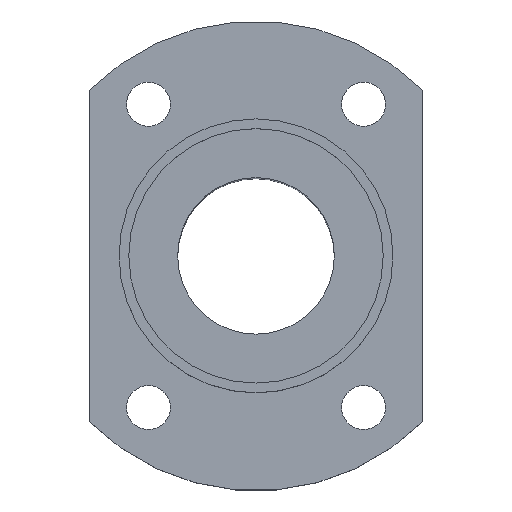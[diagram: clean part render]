
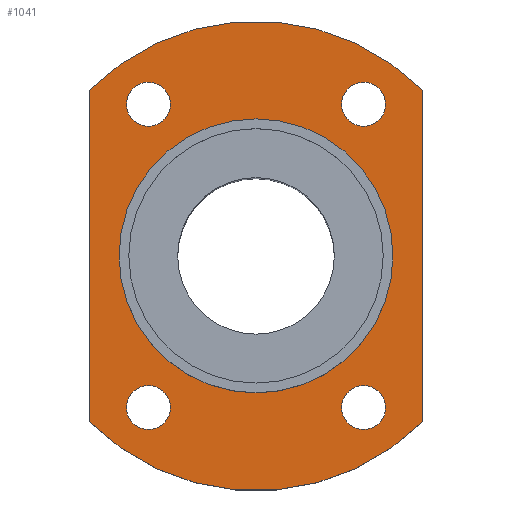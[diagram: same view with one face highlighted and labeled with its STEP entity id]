
A CAD part, top view. The second image highlights one B-rep face of the part: STEP entity #1041.
In plain terms, the highlighted planar face has unit normal (0, 0, 1).
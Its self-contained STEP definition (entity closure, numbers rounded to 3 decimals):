
#219=CARTESIAN_POINT('',(-14.,0.,-6.0));
#220=VERTEX_POINT('',#219);
#236=CARTESIAN_POINT('',(14.,0.,-6.));
#237=VERTEX_POINT('',#236);
#244=CARTESIAN_POINT('',(0.0,0.0,-6.0));
#245=DIRECTION('',(0.0,0.0,1.0));
#246=DIRECTION('',(-1.0,0.0,0.0));
#247=AXIS2_PLACEMENT_3D('',#244,#245,#246);
#248=CIRCLE('',#247,14.);
#249=EDGE_CURVE('',#237,#220,#248,.T.);
#259=CARTESIAN_POINT('',(-8.75,-15.5,-6.));
#260=VERTEX_POINT('',#259);
#269=CARTESIAN_POINT('',(-13.25,-15.5,-6.));
#270=VERTEX_POINT('',#269);
#271=CARTESIAN_POINT('',(-11.,-15.5,-6.));
#272=DIRECTION('',(0.0,0.0,-1.0));
#273=DIRECTION('',(1.0,0.0,0.0));
#274=AXIS2_PLACEMENT_3D('',#271,#272,#273);
#275=CIRCLE('',#274,2.25);
#276=EDGE_CURVE('',#270,#260,#275,.T.);
#343=CARTESIAN_POINT('',(13.25,15.5,-6.));
#344=VERTEX_POINT('',#343);
#353=CARTESIAN_POINT('',(8.75,15.5,-6.));
#354=VERTEX_POINT('',#353);
#355=CARTESIAN_POINT('',(11.,15.5,-6.));
#356=DIRECTION('',(0.0,0.0,-1.0));
#357=DIRECTION('',(1.0,0.0,0.0));
#358=AXIS2_PLACEMENT_3D('',#355,#356,#357);
#359=CIRCLE('',#358,2.25);
#360=EDGE_CURVE('',#354,#344,#359,.T.);
#427=CARTESIAN_POINT('',(-8.75,15.5,-6.));
#428=VERTEX_POINT('',#427);
#437=CARTESIAN_POINT('',(-13.25,15.5,-6.));
#438=VERTEX_POINT('',#437);
#439=CARTESIAN_POINT('',(-11.,15.5,-6.));
#440=DIRECTION('',(0.0,0.0,-1.0));
#441=DIRECTION('',(1.0,0.0,0.0));
#442=AXIS2_PLACEMENT_3D('',#439,#440,#441);
#443=CIRCLE('',#442,2.25);
#444=EDGE_CURVE('',#438,#428,#443,.T.);
#511=CARTESIAN_POINT('',(13.25,-15.5,-6.));
#512=VERTEX_POINT('',#511);
#521=CARTESIAN_POINT('',(8.75,-15.5,-6.));
#522=VERTEX_POINT('',#521);
#523=CARTESIAN_POINT('',(11.,-15.5,-6.));
#524=DIRECTION('',(0.0,0.0,-1.0));
#525=DIRECTION('',(1.0,0.0,0.0));
#526=AXIS2_PLACEMENT_3D('',#523,#524,#525);
#527=CIRCLE('',#526,2.25);
#528=EDGE_CURVE('',#522,#512,#527,.T.);
#642=CARTESIAN_POINT('',(11.,-15.5,-6.));
#643=DIRECTION('',(0.0,0.0,-1.0));
#644=DIRECTION('',(1.0,0.0,0.0));
#645=AXIS2_PLACEMENT_3D('',#642,#643,#644);
#646=CIRCLE('',#645,2.25);
#647=EDGE_CURVE('',#512,#522,#646,.T.);
#704=CARTESIAN_POINT('',(-11.,15.5,-6.));
#705=DIRECTION('',(0.0,0.0,-1.0));
#706=DIRECTION('',(1.0,0.0,0.0));
#707=AXIS2_PLACEMENT_3D('',#704,#705,#706);
#708=CIRCLE('',#707,2.25);
#709=EDGE_CURVE('',#428,#438,#708,.T.);
#766=CARTESIAN_POINT('',(11.,15.5,-6.));
#767=DIRECTION('',(0.0,0.0,-1.0));
#768=DIRECTION('',(1.0,0.0,0.0));
#769=AXIS2_PLACEMENT_3D('',#766,#767,#768);
#770=CIRCLE('',#769,2.25);
#771=EDGE_CURVE('',#344,#354,#770,.T.);
#828=CARTESIAN_POINT('',(-11.,-15.5,-6.));
#829=DIRECTION('',(0.0,0.0,-1.0));
#830=DIRECTION('',(1.0,0.0,0.0));
#831=AXIS2_PLACEMENT_3D('',#828,#829,#830);
#832=CIRCLE('',#831,2.25);
#833=EDGE_CURVE('',#260,#270,#832,.T.);
#854=CARTESIAN_POINT('',(17.,-16.941,-6.));
#855=VERTEX_POINT('',#854);
#862=CARTESIAN_POINT('',(-17.0,-16.941,-6.));
#863=VERTEX_POINT('',#862);
#864=CARTESIAN_POINT('',(0.0,0.0,-6.));
#865=DIRECTION('',(0.0,0.0,1.));
#866=DIRECTION('',(-0.708,-0.706,0.0));
#867=AXIS2_PLACEMENT_3D('',#864,#865,#866);
#868=CIRCLE('',#867,24.);
#869=EDGE_CURVE('',#863,#855,#868,.T.);
#893=CARTESIAN_POINT('',(17.0,16.941,-6.));
#894=VERTEX_POINT('',#893);
#901=CARTESIAN_POINT('',(17.,-16.941,-6.));
#902=DIRECTION('',(0.0,1.0,0.0));
#903=VECTOR('',#902,33.882);
#904=LINE('',#901,#903);
#905=EDGE_CURVE('',#855,#894,#904,.T.);
#925=CARTESIAN_POINT('',(-17.,16.941,-6.));
#926=VERTEX_POINT('',#925);
#933=CARTESIAN_POINT('',(0.0,0.0,-6.));
#934=DIRECTION('',(0.0,0.0,1.));
#935=DIRECTION('',(0.708,0.706,0.0));
#936=AXIS2_PLACEMENT_3D('',#933,#934,#935);
#937=CIRCLE('',#936,24.);
#938=EDGE_CURVE('',#894,#926,#937,.T.);
#956=CARTESIAN_POINT('',(-17.,16.941,-6.));
#957=DIRECTION('',(0.0,-1.0,0.0));
#958=VECTOR('',#957,33.882);
#959=LINE('',#956,#958);
#960=EDGE_CURVE('',#926,#863,#959,.T.);
#1004=CARTESIAN_POINT('',(0.,0.0,-6.0));
#1005=DIRECTION('',(0.0,0.0,1.0));
#1006=DIRECTION('',(1.0,0.0,0.0));
#1007=AXIS2_PLACEMENT_3D('',#1004,#1005,#1006);
#1008=PLANE('',#1007);
#1009=ORIENTED_EDGE('',*,*,#960,.T.);
#1010=ORIENTED_EDGE('',*,*,#869,.T.);
#1011=ORIENTED_EDGE('',*,*,#905,.T.);
#1012=ORIENTED_EDGE('',*,*,#938,.T.);
#1013=EDGE_LOOP('',(#1009,#1010,#1011,#1012));
#1014=FACE_OUTER_BOUND('',#1013,.T.);
#1015=ORIENTED_EDGE('',*,*,#528,.T.);
#1016=ORIENTED_EDGE('',*,*,#647,.T.);
#1017=EDGE_LOOP('',(#1015,#1016));
#1018=FACE_BOUND('',#1017,.T.);
#1019=ORIENTED_EDGE('',*,*,#444,.T.);
#1020=ORIENTED_EDGE('',*,*,#709,.T.);
#1021=EDGE_LOOP('',(#1019,#1020));
#1022=FACE_BOUND('',#1021,.T.);
#1023=ORIENTED_EDGE('',*,*,#360,.T.);
#1024=ORIENTED_EDGE('',*,*,#771,.T.);
#1025=EDGE_LOOP('',(#1023,#1024));
#1026=FACE_BOUND('',#1025,.T.);
#1027=ORIENTED_EDGE('',*,*,#276,.T.);
#1028=ORIENTED_EDGE('',*,*,#833,.T.);
#1029=EDGE_LOOP('',(#1027,#1028));
#1030=FACE_BOUND('',#1029,.T.);
#1031=ORIENTED_EDGE('',*,*,#249,.F.);
#1032=CARTESIAN_POINT('',(0.0,0.0,-6.0));
#1033=DIRECTION('',(0.0,0.0,1.0));
#1034=DIRECTION('',(-1.0,0.0,0.0));
#1035=AXIS2_PLACEMENT_3D('',#1032,#1033,#1034);
#1036=CIRCLE('',#1035,14.);
#1037=EDGE_CURVE('',#220,#237,#1036,.T.);
#1038=ORIENTED_EDGE('',*,*,#1037,.F.);
#1039=EDGE_LOOP('',(#1031,#1038));
#1040=FACE_BOUND('',#1039,.T.);
#1041=ADVANCED_FACE('',(#1014,#1018,#1022,#1026,#1030,#1040),#1008,.T.);
